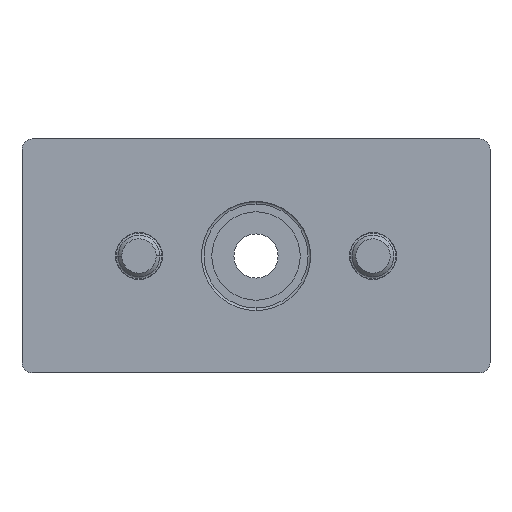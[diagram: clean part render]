
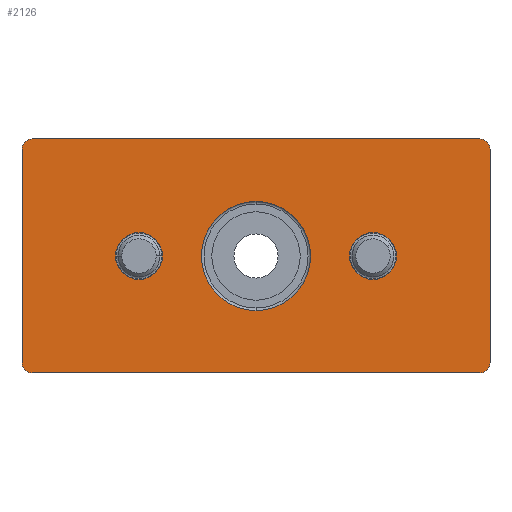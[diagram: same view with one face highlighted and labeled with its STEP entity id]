
A CAD part, front view. The second image highlights one B-rep face of the part: STEP entity #2126.
In plain terms, the highlighted planar face has unit normal (0, -1, 0).
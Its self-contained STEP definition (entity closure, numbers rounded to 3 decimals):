
#17 = CIRCLE ( 'NONE', #2965, 2. ) ;
#28 = VERTEX_POINT ( 'NONE', #2417 ) ;
#96 = DIRECTION ( 'NONE',  ( 0., -1., 0. ) ) ;
#98 = DIRECTION ( 'NONE',  ( 0., -1., 0. ) ) ;
#131 = CARTESIAN_POINT ( 'NONE',  ( 41.03, -4.575, -22.494 ) ) ;
#179 = CIRCLE ( 'NONE', #228, 10.5 ) ;
#191 = VERTEX_POINT ( 'NONE', #3103 ) ;
#228 = AXIS2_PLACEMENT_3D ( 'NONE', #614, #2547, #2261 ) ;
#275 = VERTEX_POINT ( 'NONE', #1727 ) ;
#300 = ORIENTED_EDGE ( 'NONE', *, *, #2980, .F. ) ;
#309 = VERTEX_POINT ( 'NONE', #474 ) ;
#340 = CARTESIAN_POINT ( 'NONE',  ( 18.53, -4.575, -4.494 ) ) ;
#403 = VERTEX_POINT ( 'NONE', #2419 ) ;
#407 = ORIENTED_EDGE ( 'NONE', *, *, #2084, .F. ) ;
#411 = DIRECTION ( 'NONE',  ( 0., 0., 1. ) ) ;
#429 = EDGE_CURVE ( 'NONE', #191, #275, #1529, .T. ) ;
#436 = ORIENTED_EDGE ( 'NONE', *, *, #3101, .T. ) ;
#437 = LINE ( 'NONE', #1685, #2007 ) ;
#456 = EDGE_CURVE ( 'NONE', #886, #1692, #3378, .T. ) ;
#469 = ORIENTED_EDGE ( 'NONE', *, *, #3456, .F. ) ;
#474 = CARTESIAN_POINT ( 'NONE',  ( -46.97, -4.575, -22.494 ) ) ;
#477 = ORIENTED_EDGE ( 'NONE', *, *, #1955, .T. ) ;
#502 = VERTEX_POINT ( 'NONE', #659 ) ;
#514 = EDGE_CURVE ( 'NONE', #1692, #886, #179, .T. ) ;
#529 = DIRECTION ( 'NONE',  ( 0., 0., 1. ) ) ;
#603 = DIRECTION ( 'NONE',  ( 0., 1., 0. ) ) ;
#614 = CARTESIAN_POINT ( 'NONE',  ( -3.97, -4.575, 0.006 ) ) ;
#625 = DIRECTION ( 'NONE',  ( 1., 0., 0. ) ) ;
#646 = FACE_BOUND ( 'NONE', #2391, .T. ) ;
#659 = CARTESIAN_POINT ( 'NONE',  ( 41.03, -4.575, -20.494 ) ) ;
#776 = EDGE_CURVE ( 'NONE', #2325, #2213, #806, .T. ) ;
#786 = ORIENTED_EDGE ( 'NONE', *, *, #456, .F. ) ;
#804 = DIRECTION ( 'NONE',  ( 0., 1., 0. ) ) ;
#806 = CIRCLE ( 'NONE', #2491, 4.5 ) ;
#825 = ORIENTED_EDGE ( 'NONE', *, *, #1979, .T. ) ;
#886 = VERTEX_POINT ( 'NONE', #1495 ) ;
#907 = AXIS2_PLACEMENT_3D ( 'NONE', #2157, #603, #3077 ) ;
#1032 = DIRECTION ( 'NONE',  ( 0., 1., 0. ) ) ;
#1045 = ORIENTED_EDGE ( 'NONE', *, *, #514, .F. ) ;
#1048 = CARTESIAN_POINT ( 'NONE',  ( 39.03, -4.575, -20.494 ) ) ;
#1049 = CARTESIAN_POINT ( 'NONE',  ( 18.53, -4.575, 0.006 ) ) ;
#1057 = DIRECTION ( 'NONE',  ( 0., 0., 1. ) ) ;
#1071 = EDGE_CURVE ( 'NONE', #3519, #2887, #17, .T. ) ;
#1203 = VERTEX_POINT ( 'NONE', #3084 ) ;
#1209 = CIRCLE ( 'NONE', #3709, 4.5 ) ;
#1324 = DIRECTION ( 'NONE',  ( 0., 0., 1. ) ) ;
#1346 = CIRCLE ( 'NONE', #1471, 2. ) ;
#1471 = AXIS2_PLACEMENT_3D ( 'NONE', #1048, #1723, #3852 ) ;
#1495 = CARTESIAN_POINT ( 'NONE',  ( -3.97, -4.575, -10.494 ) ) ;
#1516 = LINE ( 'NONE', #1859, #3949 ) ;
#1529 = CIRCLE ( 'NONE', #3192, 4.5 ) ;
#1538 = FACE_BOUND ( 'NONE', #3118, .T. ) ;
#1650 = VERTEX_POINT ( 'NONE', #1998 ) ;
#1666 = LINE ( 'NONE', #131, #2401 ) ;
#1682 = EDGE_CURVE ( 'NONE', #275, #191, #2110, .T. ) ;
#1685 = CARTESIAN_POINT ( 'NONE',  ( 41.03, -4.575, 22.506 ) ) ;
#1692 = VERTEX_POINT ( 'NONE', #3836 ) ;
#1695 = CARTESIAN_POINT ( 'NONE',  ( -48.97, -4.575, -22.494 ) ) ;
#1723 = DIRECTION ( 'NONE',  ( 0., -1., 0. ) ) ;
#1727 = CARTESIAN_POINT ( 'NONE',  ( -26.47, -4.575, -4.494 ) ) ;
#1748 = ORIENTED_EDGE ( 'NONE', *, *, #776, .T. ) ;
#1771 = CARTESIAN_POINT ( 'NONE',  ( 18.53, -4.575, 4.506 ) ) ;
#1814 = CARTESIAN_POINT ( 'NONE',  ( -3.97, -4.575, 0.006 ) ) ;
#1859 = CARTESIAN_POINT ( 'NONE',  ( -48.97, -4.575, 22.506 ) ) ;
#1863 = CARTESIAN_POINT ( 'NONE',  ( 39.03, -4.575, 20.506 ) ) ;
#1884 = DIRECTION ( 'NONE',  ( 0., -1., 0. ) ) ;
#1955 = EDGE_CURVE ( 'NONE', #28, #502, #1346, .T. ) ;
#1979 = EDGE_CURVE ( 'NONE', #2213, #2325, #1209, .T. ) ;
#1998 = CARTESIAN_POINT ( 'NONE',  ( 39.03, -4.575, 22.506 ) ) ;
#2004 = DIRECTION ( 'NONE',  ( 0., 0., 1. ) ) ;
#2007 = VECTOR ( 'NONE', #2599, 1000. ) ;
#2015 = DIRECTION ( 'NONE',  ( 0., 1., 0. ) ) ;
#2066 = VECTOR ( 'NONE', #2004, 1000. ) ;
#2084 = EDGE_CURVE ( 'NONE', #3519, #1650, #1516, .T. ) ;
#2087 = ORIENTED_EDGE ( 'NONE', *, *, #3983, .F. ) ;
#2110 = CIRCLE ( 'NONE', #2615, 4.5 ) ;
#2126 = ADVANCED_FACE ( 'NONE', ( #2755, #1538, #646, #2793 ), #3117, .F. ) ;
#2157 = CARTESIAN_POINT ( 'NONE',  ( -3.97, -4.575, 0.006 ) ) ;
#2213 = VERTEX_POINT ( 'NONE', #1771 ) ;
#2261 = DIRECTION ( 'NONE',  ( 0., 0., -1. ) ) ;
#2325 = VERTEX_POINT ( 'NONE', #340 ) ;
#2358 = LINE ( 'NONE', #1695, #2066 ) ;
#2373 = EDGE_CURVE ( 'NONE', #1203, #309, #2584, .T. ) ;
#2391 = EDGE_LOOP ( 'NONE', ( #786, #1045 ) ) ;
#2401 = VECTOR ( 'NONE', #2900, 1000. ) ;
#2417 = CARTESIAN_POINT ( 'NONE',  ( 39.03, -4.575, -22.494 ) ) ;
#2419 = CARTESIAN_POINT ( 'NONE',  ( 41.03, -4.575, 20.506 ) ) ;
#2491 = AXIS2_PLACEMENT_3D ( 'NONE', #1049, #2854, #411 ) ;
#2545 = AXIS2_PLACEMENT_3D ( 'NONE', #1863, #1884, #3762 ) ;
#2547 = DIRECTION ( 'NONE',  ( 0., -1., 0. ) ) ;
#2584 = CIRCLE ( 'NONE', #3160, 2. ) ;
#2599 = DIRECTION ( 'NONE',  ( 0., 0., -1. ) ) ;
#2615 = AXIS2_PLACEMENT_3D ( 'NONE', #2630, #1032, #3548 ) ;
#2630 = CARTESIAN_POINT ( 'NONE',  ( -26.47, -4.575, 0.006 ) ) ;
#2650 = DIRECTION ( 'NONE',  ( 0., -1., 0. ) ) ;
#2699 = CARTESIAN_POINT ( 'NONE',  ( -46.97, -4.575, 22.506 ) ) ;
#2741 = AXIS2_PLACEMENT_3D ( 'NONE', #1814, #2650, #3897 ) ;
#2755 = FACE_BOUND ( 'NONE', #3450, .T. ) ;
#2793 = FACE_OUTER_BOUND ( 'NONE', #3574, .T. ) ;
#2844 = CARTESIAN_POINT ( 'NONE',  ( -46.97, -4.575, -20.494 ) ) ;
#2854 = DIRECTION ( 'NONE',  ( 0., 1., 0. ) ) ;
#2887 = VERTEX_POINT ( 'NONE', #3505 ) ;
#2900 = DIRECTION ( 'NONE',  ( -1., 0., 0. ) ) ;
#2929 = ORIENTED_EDGE ( 'NONE', *, *, #1071, .T. ) ;
#2965 = AXIS2_PLACEMENT_3D ( 'NONE', #3467, #96, #1057 ) ;
#2980 = EDGE_CURVE ( 'NONE', #28, #309, #1666, .T. ) ;
#3077 = DIRECTION ( 'NONE',  ( 0., 0., 1. ) ) ;
#3084 = CARTESIAN_POINT ( 'NONE',  ( -48.97, -4.575, -20.494 ) ) ;
#3101 = EDGE_CURVE ( 'NONE', #403, #1650, #3761, .T. ) ;
#3103 = CARTESIAN_POINT ( 'NONE',  ( -26.47, -4.575, 4.506 ) ) ;
#3117 = PLANE ( 'NONE',  #907 ) ;
#3118 = EDGE_LOOP ( 'NONE', ( #825, #1748 ) ) ;
#3160 = AXIS2_PLACEMENT_3D ( 'NONE', #2844, #98, #1324 ) ;
#3192 = AXIS2_PLACEMENT_3D ( 'NONE', #3590, #804, #529 ) ;
#3226 = DIRECTION ( 'NONE',  ( 0., 0., 1. ) ) ;
#3378 = CIRCLE ( 'NONE', #2741, 10.5 ) ;
#3450 = EDGE_LOOP ( 'NONE', ( #3839, #3806 ) ) ;
#3456 = EDGE_CURVE ( 'NONE', #403, #502, #437, .T. ) ;
#3467 = CARTESIAN_POINT ( 'NONE',  ( -46.97, -4.575, 20.506 ) ) ;
#3505 = CARTESIAN_POINT ( 'NONE',  ( -48.97, -4.575, 20.506 ) ) ;
#3519 = VERTEX_POINT ( 'NONE', #2699 ) ;
#3548 = DIRECTION ( 'NONE',  ( 0., 0., 1. ) ) ;
#3574 = EDGE_LOOP ( 'NONE', ( #300, #477, #469, #436, #407, #2929, #2087, #3970 ) ) ;
#3590 = CARTESIAN_POINT ( 'NONE',  ( -26.47, -4.575, 0.006 ) ) ;
#3709 = AXIS2_PLACEMENT_3D ( 'NONE', #3788, #2015, #3226 ) ;
#3761 = CIRCLE ( 'NONE', #2545, 2. ) ;
#3762 = DIRECTION ( 'NONE',  ( 0., 0., 1. ) ) ;
#3788 = CARTESIAN_POINT ( 'NONE',  ( 18.53, -4.575, 0.006 ) ) ;
#3806 = ORIENTED_EDGE ( 'NONE', *, *, #1682, .T. ) ;
#3836 = CARTESIAN_POINT ( 'NONE',  ( -3.97, -4.575, 10.506 ) ) ;
#3839 = ORIENTED_EDGE ( 'NONE', *, *, #429, .T. ) ;
#3852 = DIRECTION ( 'NONE',  ( 0., 0., 1. ) ) ;
#3897 = DIRECTION ( 'NONE',  ( 0., 0., -1. ) ) ;
#3949 = VECTOR ( 'NONE', #625, 1000. ) ;
#3970 = ORIENTED_EDGE ( 'NONE', *, *, #2373, .T. ) ;
#3983 = EDGE_CURVE ( 'NONE', #1203, #2887, #2358, .T. ) ;
